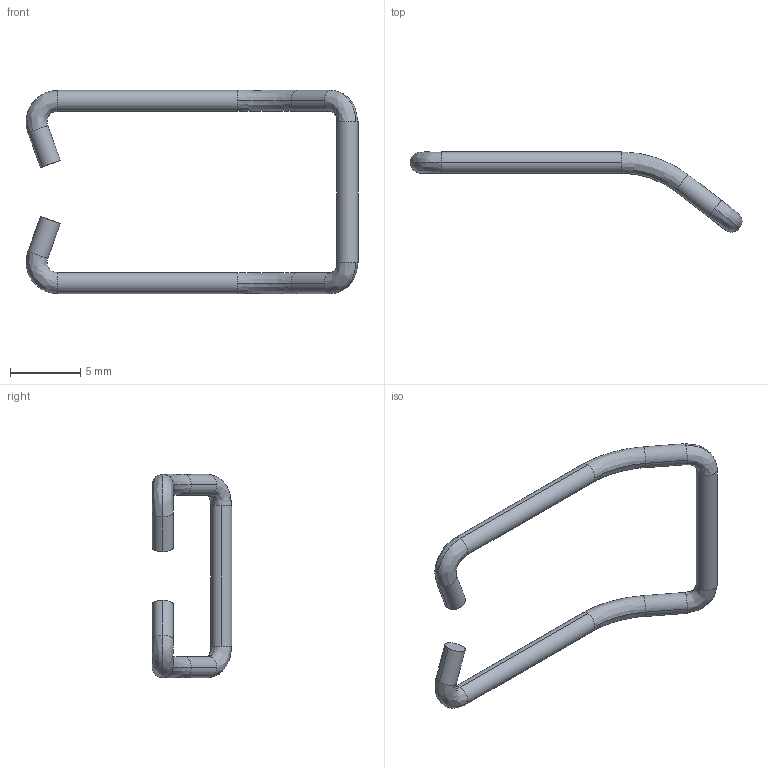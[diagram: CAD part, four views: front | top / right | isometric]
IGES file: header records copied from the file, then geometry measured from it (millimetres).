
Start section: SolidWorks IGES FILE using analytic representation for surfaces
Global section: file name: C:\WINNT\Profiles\cbrechard\Bureau\GE 574\70.220.00.IGS; native system: SolidWorks 2001Plus by SolidWorks Corporation; preprocessor: Version 5.3; author: CBRECHARD; date: 050125.145149; units: millimetre
Bounding box: 23.69 x 5.69 x 14.5 mm (x, y, z)
Surface area: 317.7 mm2 (no closed solid volume)
Topology: 0 solids, 0 shells, 28 faces, 160 edges, 160 vertices
Faces by surface type: bspline 14, revolution 14
